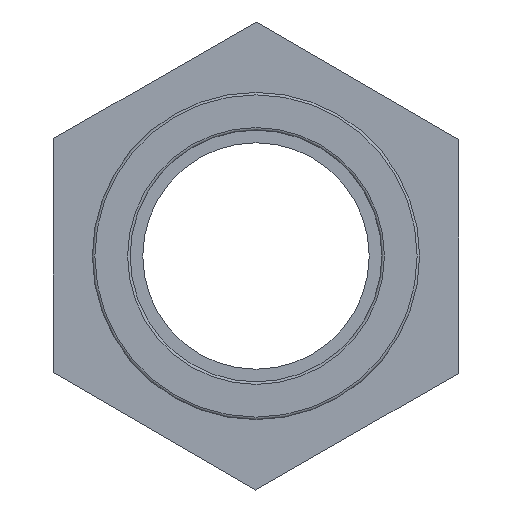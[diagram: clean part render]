
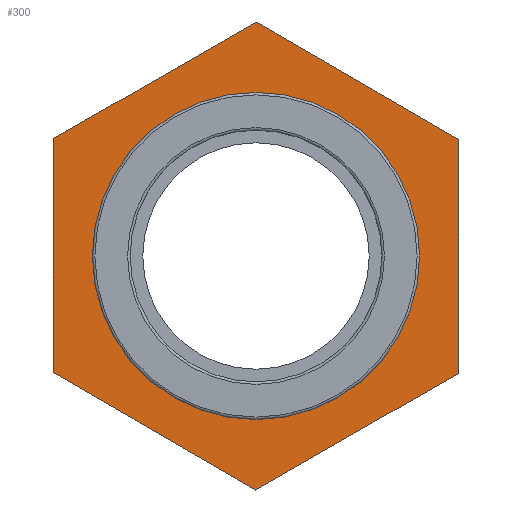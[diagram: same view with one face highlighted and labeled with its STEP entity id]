
A CAD part, left-side view. The second image highlights one B-rep face of the part: STEP entity #300.
In plain terms, the highlighted planar face has unit normal (-1, 0, 0).
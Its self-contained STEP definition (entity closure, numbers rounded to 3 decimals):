
#15=LINE('',#466,#33);
#19=LINE('',#474,#37);
#22=LINE('',#480,#40);
#25=LINE('',#487,#43);
#29=LINE('',#494,#47);
#31=LINE('',#497,#49);
#33=VECTOR('',#386,17.321);
#37=VECTOR('',#392,17.321);
#40=VECTOR('',#397,17.321);
#43=VECTOR('',#402,17.321);
#47=VECTOR('',#408,17.321);
#49=VECTOR('',#412,17.321);
#67=PLANE('',#337);
#82=FACE_BOUND('',#139,.T.);
#103=FACE_OUTER_BOUND('',#138,.T.);
#138=EDGE_LOOP('',(#269,#270,#271,#272,#273,#274));
#139=EDGE_LOOP('',(#275));
#151=CIRCLE('',#324,12.11);
#165=VERTEX_POINT('',#461);
#166=VERTEX_POINT('',#464);
#167=VERTEX_POINT('',#465);
#170=VERTEX_POINT('',#473);
#172=VERTEX_POINT('',#479);
#174=VERTEX_POINT('',#485);
#175=VERTEX_POINT('',#486);
#191=EDGE_CURVE('',#165,#165,#151,.T.);
#192=EDGE_CURVE('',#166,#167,#15,.T.);
#196=EDGE_CURVE('',#167,#170,#19,.T.);
#199=EDGE_CURVE('',#170,#172,#22,.T.);
#202=EDGE_CURVE('',#174,#175,#25,.T.);
#206=EDGE_CURVE('',#175,#166,#29,.T.);
#208=EDGE_CURVE('',#172,#174,#31,.T.);
#269=ORIENTED_EDGE('',*,*,#206,.F.);
#270=ORIENTED_EDGE('',*,*,#202,.F.);
#271=ORIENTED_EDGE('',*,*,#208,.F.);
#272=ORIENTED_EDGE('',*,*,#199,.F.);
#273=ORIENTED_EDGE('',*,*,#196,.F.);
#274=ORIENTED_EDGE('',*,*,#192,.F.);
#275=ORIENTED_EDGE('',*,*,#191,.F.);
#300=ADVANCED_FACE('',(#103,#82),#67,.T.);
#324=AXIS2_PLACEMENT_3D('',#462,#382,#383);
#337=AXIS2_PLACEMENT_3D('',#507,#426,#427);
#382=DIRECTION('center_axis',(-1.,0.,0.));
#383=DIRECTION('ref_axis',(0.,0.,1.));
#386=DIRECTION('',(0.,0.003,-1.));
#392=DIRECTION('',(0.,0.867,-0.498));
#397=DIRECTION('',(0.,0.865,0.502));
#402=DIRECTION('',(0.,-0.867,0.498));
#408=DIRECTION('',(0.,-0.865,-0.502));
#412=DIRECTION('',(0.,-0.003,1.));
#426=DIRECTION('center_axis',(-1.,0.,0.));
#427=DIRECTION('ref_axis',(0.,0.,1.));
#461=CARTESIAN_POINT('',(-5.9,-12.11,0.));
#462=CARTESIAN_POINT('Origin',(-5.9,0.,0.));
#464=CARTESIAN_POINT('',(-5.9,-15.025,8.617));
#465=CARTESIAN_POINT('',(-5.9,-14.975,-8.703));
#466=CARTESIAN_POINT('',(-5.9,-14.988,-4.373));
#473=CARTESIAN_POINT('',(-5.9,0.05,-17.32));
#474=CARTESIAN_POINT('',(-5.9,-3.707,-15.166));
#479=CARTESIAN_POINT('',(-5.9,15.025,-8.617));
#480=CARTESIAN_POINT('',(-5.9,11.281,-10.793));
#485=CARTESIAN_POINT('',(-5.9,14.975,8.703));
#486=CARTESIAN_POINT('',(-5.9,-0.05,17.32));
#487=CARTESIAN_POINT('',(-5.9,3.707,15.166));
#494=CARTESIAN_POINT('',(-5.9,-11.281,10.793));
#497=CARTESIAN_POINT('',(-5.9,15.,0.043));
#507=CARTESIAN_POINT('Origin',(-5.9,-12.11,0.));
